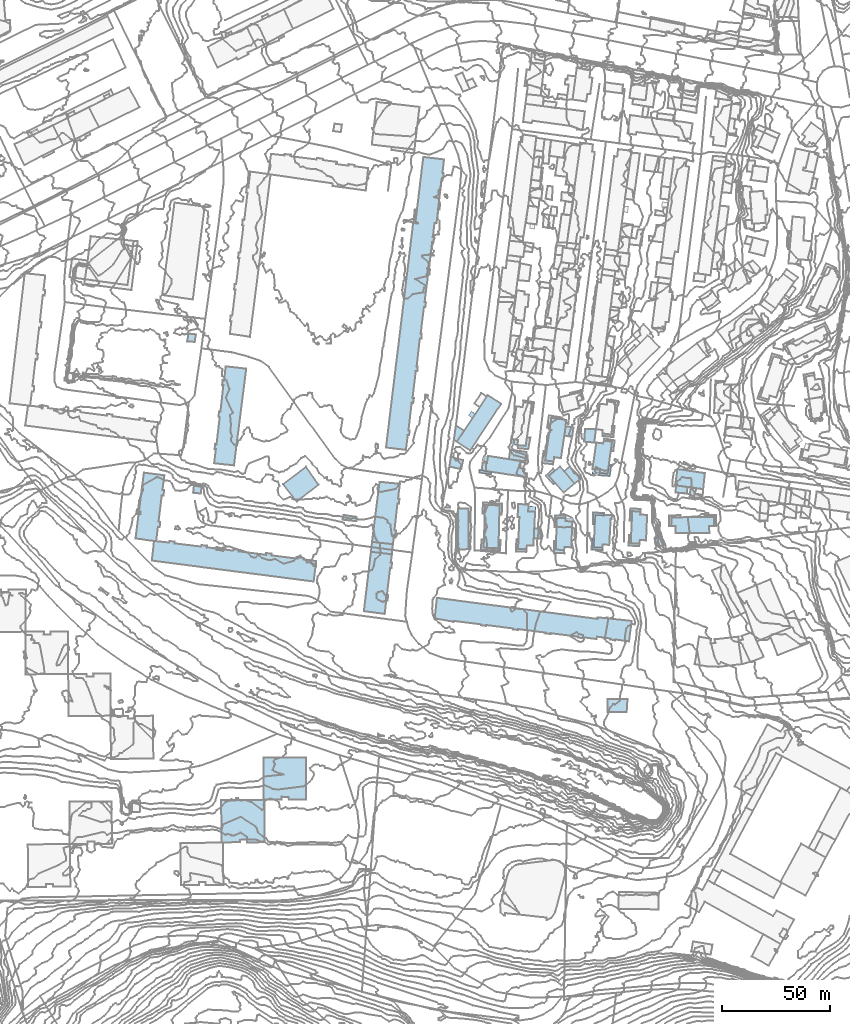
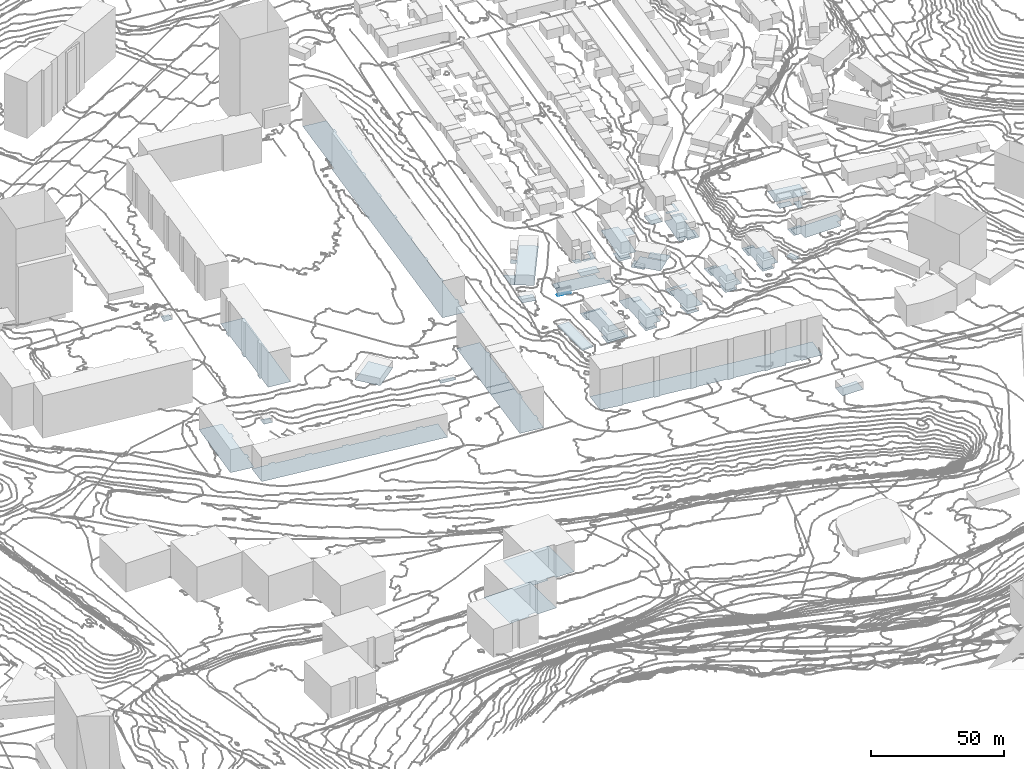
# Not in any storey, part 10 of 419: 61 footings.
"""IFC2X3 model written with IfcOpenShell, lengths in metres."""

import ifcopenshell
import ifcopenshell.guid

model = None  # the IFC model being written
_history = None  # IfcOwnerHistory: only IFC2X3 demands one
_inside = {}  # id of a spatial element -> (the spatial element, [elements in it])
_under = {}  # id of a project, library or spatial element -> (it, [spatial elements below it])
_declared = {}  # id of a project -> (the project, [libraries it declares])
_typed = {}  # id of a type object -> (the type object, [elements of that type])
_made_of = {}  # id of a material, layer set ... -> (it, [elements and type objects made of it])


def new_model(schema):
    """Start an empty IFC model of exactly this schema.

    Asked for "IFC4X3", IfcOpenShell would pick the latest addendum, in which some entities
    have other attributes; the version numbers below select the first issue.
    IFC2X3 requires an IfcOwnerHistory on every rooted entity: one is made here for all.
    """
    global model, _history
    if schema == "IFC4X3":
        model = ifcopenshell.file(schema_version=(4, 3, 0, 0))
    else:
        model = ifcopenshell.file(schema=schema)
    _inside.clear()
    _under.clear()
    _declared.clear()
    _typed.clear()
    _made_of.clear()
    _history = None
    if model.schema == "IFC2X3":
        org = make("IfcOrganization", Name="unknown")
        user = make(
            "IfcPersonAndOrganization",
            ThePerson=make("IfcPerson", FamilyName="unknown"),
            TheOrganization=org,
        )
        app = make(
            "IfcApplication",
            ApplicationDeveloper=org,
            Version="unknown",
            ApplicationFullName="unknown",
            ApplicationIdentifier="unknown",
        )
        _history = make(
            "IfcOwnerHistory",
            OwningUser=user,
            OwningApplication=app,
            ChangeAction="ADDED",
            CreationDate=0,
        )
    return model


def make(cls, **values):
    """One entity of the class cls with the attributes given. An attribute that is None is left unset."""
    return model.create_entity(
        cls, **{name: value for name, value in values.items() if value is not None}
    )


def rooted(cls, **values):
    """An entity with a GlobalId (a new one), such as an element, a storey or a relation."""
    return make(cls, GlobalId=ifcopenshell.guid.new(), OwnerHistory=_history, **values)


def si_unit(unit_type, name, prefix=None):
    """IfcSIUnit, for example si_unit("LENGTHUNIT", "METRE", prefix="MILLI")."""
    return make("IfcSIUnit", UnitType=unit_type, Prefix=prefix, Name=name)


def assignment(units):
    """IfcUnitAssignment: the units of a project."""
    return None if units is None else make("IfcUnitAssignment", Units=units)


def point(xyz):
    """IfcCartesianPoint."""
    return None if xyz is None else make("IfcCartesianPoint", Coordinates=xyz)


def direction(xyz):
    """IfcDirection."""
    return None if xyz is None else make("IfcDirection", DirectionRatios=xyz)


def frame(location, z_axis=None, x_axis=None):
    """IfcAxis2Placement3D, a coordinate frame: its origin and axes. An axis left out is left unset."""
    return make(
        "IfcAxis2Placement3D",
        Location=point(location),
        Axis=direction(z_axis),
        RefDirection=direction(x_axis),
    )


def origin_with_axes():
    """The frame at (0, 0, 0) with the z axis (0, 0, 1) and the x axis (1, 0, 0) written out."""
    return frame((0.0, 0.0, 0.0), z_axis=(0.0, 0.0, 1.0), x_axis=(1.0, 0.0, 0.0))


def place(relative_to, where):
    """IfcLocalPlacement: puts the frame where relative to a parent placement (None: the world)."""
    return make(
        "IfcLocalPlacement", PlacementRelTo=relative_to, RelativePlacement=where
    )


def context(
    kind, dimensions, precision=None, world=None, true_north=None, identifier=None
):
    """IfcGeometricRepresentationContext, for example the 3D "Model" context."""
    return make(
        "IfcGeometricRepresentationContext",
        ContextIdentifier=identifier,
        ContextType=kind,
        CoordinateSpaceDimension=dimensions,
        Precision=precision,
        WorldCoordinateSystem=world,
        TrueNorth=true_north,
    )


def subcontext(parent, identifier, kind, view, scale=None):
    """IfcGeometricRepresentationSubContext, for example "Body" below "Model"."""
    return make(
        "IfcGeometricRepresentationSubContext",
        ContextIdentifier=identifier,
        ContextType=kind,
        ParentContext=parent,
        TargetScale=scale,
        TargetView=view,
    )


def project(units=None, contexts=None):
    """IfcProject with its units and contexts."""
    return rooted(
        "IfcProject",
        Name="project",
        RepresentationContexts=contexts,
        UnitsInContext=assignment(units),
    )


def faces_of(points, faces, orient=None, outer=None):
    """IfcFace entities. A face is a list of loops; a loop is a list of indices into points, from 0.

    orient and outer hold one flag for each loop. By default every Orientation is true, the
    first loop of a face is its IfcFaceOuterBound and the others are IfcFaceBound.
    """
    made = []
    for i, loops in enumerate(faces):
        bounds = []
        for j, loop in enumerate(loops):
            is_outer = j == 0 if outer is None else outer[i][j]
            bounds.append(
                make(
                    "IfcFaceOuterBound" if is_outer else "IfcFaceBound",
                    Bound=make("IfcPolyLoop", Polygon=[points[k] for k in loop]),
                    Orientation=True if orient is None else orient[i][j],
                )
            )
        made.append(make("IfcFace", Bounds=bounds))
    return made


def faceted_brep(points, faces, orient=None, outer=None, voids=None):
    """IfcFacetedBrep: a solid bounded by flat faces; with voids (closed shells), ...WithVoids."""
    shared = [point(p) for p in points]
    hull = make("IfcClosedShell", CfsFaces=faces_of(shared, faces, orient, outer))
    if voids is None:
        return make("IfcFacetedBrep", Outer=hull)
    return make(
        "IfcFacetedBrepWithVoids",
        Outer=hull,
        Voids=[
            make(cls, CfsFaces=faces_of(shared, fs, o, b)) for cls, fs, o, b in voids
        ],
    )


def shape(context_of_items, identifier, shape_type, items):
    """IfcShapeRepresentation: the items that make up one representation, for example the "Body"."""
    return make(
        "IfcShapeRepresentation",
        ContextOfItems=context_of_items,
        RepresentationIdentifier=identifier,
        RepresentationType=shape_type,
        Items=items,
    )


def made_of(thing, what):
    """Note that an element or type object is made of a material, layer set ...; save() writes the relation."""
    if what is not None:
        _made_of.setdefault(what.id(), (what, []))[1].append(thing)
    return thing


def element(
    cls,
    number,
    at=None,
    inside=None,
    cuts=None,
    type_object=None,
    material=None,
    context=None,
    identifier="Body",
    shape_type=None,
    held_by="IfcProductDefinitionShape",
    body=None,
    shapes=None,
    **own,
):
    """One element of the class cls, such as IfcWall. Its Tag is "e" and its number.

    at: its placement. inside: the storey or other place that contains it. cuts: it is an
    opening in that element (IfcRelVoidsElement). A single representation is given by context,
    identifier, shape_type and body (its items); several are given by shapes. held_by: the class
    of the entity that holds the representations. save() writes the other relations.
    """
    e = rooted(cls, Tag="e%d" % number, ObjectPlacement=at, **own)
    if body is not None:
        shapes = [shape(context, identifier, shape_type, body)]
    if shapes is not None:
        e.Representation = make(held_by, Representations=shapes)
    if inside is not None:
        _inside.setdefault(inside.id(), (inside, []))[1].append(e)
    if cuts is not None:
        rooted(
            "IfcRelVoidsElement", RelatingBuildingElement=cuts, RelatedOpeningElement=e
        )
    if type_object is not None:
        _typed.setdefault(type_object.id(), (type_object, []))[1].append(e)
    return made_of(e, material)


def aggregate(whole, parts):
    """IfcRelAggregates: a whole, such as a stair, and the parts it consists of."""
    return rooted("IfcRelAggregates", RelatingObject=whole, RelatedObjects=parts)


def save(model, path):
    """Write the relations noted so far, then the file.

    IfcRelAggregates (storeys below a building ...), IfcRelContainedInSpatialStructure (elements
    in a storey), IfcRelDefinesByType, IfcRelAssociatesMaterial and IfcRelDeclares: one each for
    every whole, place, type object, material and project.
    """
    for whole, parts in _under.values():
        aggregate(whole, parts)
    for where, things in _inside.values():
        rooted(
            "IfcRelContainedInSpatialStructure",
            RelatedElements=things,
            RelatingStructure=where,
        )
    for kind, things in _typed.values():
        rooted("IfcRelDefinesByType", RelatedObjects=things, RelatingType=kind)
    for what, things in _made_of.values():
        rooted("IfcRelAssociatesMaterial", RelatedObjects=things, RelatingMaterial=what)
    for by, libraries in _declared.values():
        rooted("IfcRelDeclares", RelatingContext=by, RelatedDefinitions=libraries)
    model.write(path)


model = new_model("IFC2X3")

# Units and contexts
model_context = context("Model", 3, precision=1e-05, world=origin_with_axes())
body_context = subcontext(model_context, "Body", "Model", "MODEL_VIEW")
ifc_project = project(units=[si_unit("AREAUNIT", "SQUARE_METRE"), si_unit("LENGTHUNIT", "METRE")], contexts=[model_context])

# Footings
footing_1_placement = place(None, frame((531.4920204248, 540.9976909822, 34.6650009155), z_axis=(0.0, 0.0, 1.0), x_axis=(1.0, 0.0, 0.0)))
element("IfcFooting", 1, at=footing_1_placement, Name="Sol 0", PredefinedType="STRIP_FOOTING", context=body_context, shape_type="Brep", body=[
    faceted_brep([(8.9, -0.0999999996, 0.0), (0.0, 0.0, 0.0), (0.1, 5.9000000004, 0.0), (9.2999999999, 5.9000000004, 0.0)], [[[0, 1, 2]], [[2, 3, 0]]]),
])
footing_2_placement = place(None, frame((380.8920204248, 646.6976909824, 30.5800001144), z_axis=(0.0, 0.0, 1.0), x_axis=(1.0, 0.0, 0.0)))
element("IfcFooting", 2, at=footing_2_placement, Name="Sol 0", PredefinedType="STRIP_FOOTING", context=body_context, shape_type="Brep", body=[
    faceted_brep([(0.0, 0.0, 0.0), (10.6, 8.1000000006, 0.0), (16.3999999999, -0.2000000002, 0.0), (6.3999999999, -8.0, 0.0)], [[[0, 1, 2]], [[2, 3, 0]]]),
])
footing_3_placement = place(None, frame((487.0920204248, 667.5976909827, 35.5330013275), z_axis=(0.0, 0.0, 1.0), x_axis=(1.0, 0.0, 0.0)))
element("IfcFooting", 3, at=footing_3_placement, Name="Sol 0", PredefinedType="STRIP_FOOTING", context=body_context, shape_type="Brep", body=[
    faceted_brep([(2.9, -0.4000000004, 0.0), (2.6, -2.7999999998, 0.0), (0.1, -2.5, 0.0), (0.0, 0.0, 0.0)], [[[0, 1, 2]], [[2, 3, 0]]]),
])
footing_4_placement = place(None, frame((451.2920204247, 584.3976909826, 30.0220005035), z_axis=(0.0, 0.0, 1.0), x_axis=(1.0, 0.0, 0.0)))
element("IfcFooting", 4, at=footing_4_placement, Name="Sol 0", PredefinedType="STRIP_FOOTING", context=body_context, shape_type="Brep", body=[
    faceted_brep([(91.4, -1.2000000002, 0.0), (90.2000000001, -10.7000000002, 0.0), (83.8, -9.7999999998, 0.0), (75.7000000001, -0.2999999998, 0.0), (75.7000000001, 0.5, 0.0), (0.0, 0.0, 0.0), (1.0, 9.5, 0.0), (8.8, -1.2000000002, 0.0), (8.7000000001, -1.5999999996, 0.0), (23.8, -3.5, 0.0), (21.6000000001, -3.2000000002, 0.0), (21.6000000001, -2.7999999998, 0.0), (38.6000000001, -5.4000000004, 0.0), (36.4, -5.0999999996, 0.0), (36.4, -4.7000000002, 0.0), (53.7000000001, -7.2999999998, 0.0), (51.5, -7.0, 0.0), (51.5, -6.5999999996, 0.0), (68.7000000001, -9.2000000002, 0.0), (66.5, -8.9000000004, 0.0), (66.5, -8.5, 0.0), (75.3, -8.5, 0.0), (75.1000000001, -9.5999999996, 0.0), (68.8, -8.7999999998, 0.0), (83.8, -10.2000000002, 0.0), (81.5, -9.7999999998, 0.0), (81.6000000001, -9.4000000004, 0.0), (23.9, -3.0999999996, 0.0), (38.7000000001, -5.0, 0.0), (53.8, -6.9000000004, 0.0)], [[[0, 1, 2]], [[3, 4, 0]], [[5, 6, 3]], [[7, 8, 5]], [[9, 10, 11]], [[12, 13, 14]], [[15, 16, 17]], [[18, 19, 20]], [[21, 22, 23]], [[24, 25, 26]], [[3, 0, 2]], [[7, 5, 3]], [[27, 9, 11]], [[28, 12, 14]], [[29, 15, 17]], [[23, 18, 20]], [[2, 24, 26]], [[11, 7, 3]], [[14, 27, 11]], [[17, 28, 14]], [[20, 29, 17]], [[21, 23, 20]], [[3, 2, 26]], [[14, 11, 3]], [[21, 20, 17]], [[3, 26, 21]], [[17, 14, 3]], [[3, 21, 17]]]),
])
footing_5_placement = place(None, frame((511.9920204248, 629.4976909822, 37.3230004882), z_axis=(0.0, 0.0, 1.0), x_axis=(1.0, 0.0, 0.0)))
element("IfcFooting", 5, at=footing_5_placement, Name="Sol 0", PredefinedType="STRIP_FOOTING", context=body_context, shape_type="Brep", body=[
    faceted_brep([(3.4, 1.5, 0.0), (3.2, -0.0999999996, 0.0), (0.0, 0.0, 0.0), (0.0, 1.5, 0.0)], [[[0, 1, 2]], [[2, 3, 0]]]),
])
footing_6_placement = place(None, frame((418.3920204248, 587.6976909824, 28.7110006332), z_axis=(0.0, 0.0, 1.0), x_axis=(1.0, 0.0, 0.0)))
element("IfcFooting", 6, at=footing_6_placement, Name="Sol 0", PredefinedType="STRIP_FOOTING", context=body_context, shape_type="Brep", body=[
    faceted_brep([(0.0, 0.0, 0.0), (3.2999999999, 27.6000000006, 0.0), (13.0, 26.4000000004, 0.0), (10.3999999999, 5.1000000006, 0.0), (9.7, -1.2000000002, 0.0), (11.2999999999, 7.6000000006, 0.0), (11.0, 5.0, 0.0), (13.1, 22.6000000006, 0.0), (12.7999999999, 20.1000000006, 0.0), (12.2, 20.1000000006, 0.0), (12.5, 22.7000000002, 0.0), (10.7, 7.6000000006, 0.0)], [[[0, 1, 2]], [[3, 4, 0]], [[5, 6, 3]], [[7, 8, 9]], [[0, 2, 10]], [[5, 3, 0]], [[10, 7, 9]], [[11, 5, 0]], [[10, 9, 11]], [[11, 0, 10]]]),
])
footing_7_placement = place(None, frame((561.0920204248, 627.1976909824, 45.709199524), z_axis=(0.0, 0.0, 1.0), x_axis=(1.0, 0.0, 0.0)))
element("IfcFooting", 7, at=footing_7_placement, Name="Sol 0", PredefinedType="STRIP_FOOTING", context=body_context, shape_type="Brep", body=[
    faceted_brep([(2.0, 0.1000000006, 0.0), (0.0, 0.0, 0.0), (0.1, 4.1000000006, 0.0), (17.7, -3.0999999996, 0.0), (2.1, -3.2000000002, 0.0), (19.8, 4.2000000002, 0.0), (19.8, 0.0, 0.0), (17.6, 0.0, 0.0)], [[[0, 1, 2]], [[3, 4, 0]], [[5, 6, 7]], [[0, 2, 5]], [[7, 3, 0]], [[0, 5, 7]]]),
])
footing_8_placement = place(None, frame((542.2920204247, 619.2976909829, 41.3799995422), z_axis=(0.0, 0.0, 1.0), x_axis=(1.0, 0.0, 0.0)))
element("IfcFooting", 8, at=footing_8_placement, Name="Sol 0", PredefinedType="STRIP_FOOTING", context=body_context, shape_type="Brep", body=[
    faceted_brep([(4.2000000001, 1.5, 0.0), (4.0, -0.2000000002, 0.0), (0.0, 0.0, 0.0), (7.6000000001, 13.0999999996, 0.0), (7.1000000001, 1.2999999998, 0.0), (0.7000000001, 14.8999999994, 0.0), (4.5, 14.5999999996, 0.0), (4.4, 13.2999999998, 0.0)], [[[0, 1, 2]], [[3, 4, 0]], [[5, 6, 7]], [[0, 2, 5]], [[7, 3, 0]], [[0, 5, 7]]]),
])
footing_9_placement = place(None, frame((502.8920204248, 650.6976909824, 37.2302006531), z_axis=(0.0, 0.0, 1.0), x_axis=(1.0, 0.0, 0.0)))
element("IfcFooting", 9, at=footing_9_placement, Name="Sol 0", PredefinedType="STRIP_FOOTING", context=body_context, shape_type="Brep", body=[
    faceted_brep([(3.3999999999, 3.2000000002, 0.0), (4.0, 2.2999999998, 0.0), (1.3999999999, -0.0999999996, 0.0), (4.2, -3.5, 0.0), (3.5, -4.0, 0.0), (0.0, 0.0, 0.0)], [[[0, 1, 2]], [[3, 4, 5]], [[5, 0, 2]], [[2, 3, 5]]]),
])
footing_10_placement = place(None, frame((489.6920204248, 664.7976909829, 36.5316988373), z_axis=(0.0, 0.0, 1.0), x_axis=(1.0, 0.0, 0.0)))
element("IfcFooting", 10, at=footing_10_placement, Name="Sol 0", PredefinedType="STRIP_FOOTING", context=body_context, shape_type="Brep", body=[
    faceted_brep([(0.3, -1.4000000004, 0.0), (0.0, 0.0, 0.0), (3.8, -0.3000000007, 0.0), (4.4, 3.6999999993, 0.0), (6.0, 3.5, 0.0), (5.0, -1.9000000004, 0.0)], [[[0, 1, 2]], [[3, 4, 5]], [[5, 0, 2]], [[2, 3, 5]]]),
])
footing_11_placement = place(None, frame((541.2920204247, 618.1976909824, 41.4967990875), z_axis=(0.0, 0.0, 1.0), x_axis=(1.0, 0.0, 0.0)))
element("IfcFooting", 11, at=footing_11_placement, Name="Sol 0", PredefinedType="STRIP_FOOTING", context=body_context, shape_type="Brep", body=[
    faceted_brep([(1.0, 1.1000000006, 0.0), (5.0, 0.9000000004, 0.0), (4.9, -0.2999999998, 0.0), (0.2000000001, 5.0, 0.0), (1.0, 5.0, 0.0), (0.0, 0.0, 0.0)], [[[0, 1, 2]], [[3, 4, 0]], [[0, 2, 5]], [[5, 3, 0]]]),
])
footing_12_placement = place(None, frame((458.0920204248, 654.7976909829, 33.89060112), z_axis=(0.0, 0.0, 1.0), x_axis=(1.0, 0.0, 0.0)))
element("IfcFooting", 12, at=footing_12_placement, Name="Sol 0", PredefinedType="STRIP_FOOTING", context=body_context, shape_type="Brep", body=[
    faceted_brep([(5.5, -1.1000000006, 0.0), (0.0, 0.0, 0.0), (0.7, 4.5, 0.0), (6.4, 3.0, 0.0)], [[[0, 1, 2]], [[2, 3, 0]]]),
])
footing_13_placement = place(None, frame((524.0920204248, 616.2976909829, 38.8784992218), z_axis=(0.0, 0.0, 1.0), x_axis=(1.0, 0.0, 0.0)))
element("IfcFooting", 13, at=footing_13_placement, Name="Sol 0", PredefinedType="STRIP_FOOTING", context=body_context, shape_type="Brep", body=[
    faceted_brep([(1.0, 1.0999999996, 0.0), (5.0, 1.0, 0.0), (5.0, -0.1000000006, 0.0), (0.3, 5.1999999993, 0.0), (1.2, 5.0999999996, 0.0), (0.0, 0.0, 0.0)], [[[0, 1, 2]], [[3, 4, 0]], [[0, 2, 5]], [[5, 3, 0]]]),
])
footing_14_placement = place(None, frame((541.7920204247, 629.8976909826, 41.3649997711), z_axis=(0.0, 0.0, 1.0), x_axis=(1.0, 0.0, 0.0)))
element("IfcFooting", 14, at=footing_14_placement, Name="Sol 0", PredefinedType="STRIP_FOOTING", context=body_context, shape_type="Brep", body=[
    faceted_brep([(5.1000000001, 5.2999999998, 0.0), (5.0, 4.0, 0.0), (1.2000000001, 4.2999999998, 0.0), (0.9, -0.2000000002, 0.0), (0.0, 0.0, 0.0), (0.3, 5.5, 0.0)], [[[0, 1, 2]], [[3, 4, 5]], [[5, 0, 2]], [[2, 3, 5]]]),
])
footing_15_placement = place(None, frame((336.3920204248, 712.9976909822, 32.726300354), z_axis=(0.0, 0.0, 1.0), x_axis=(1.0, 0.0, 0.0)))
element("IfcFooting", 15, at=footing_15_placement, Name="Sol 0", PredefinedType="STRIP_FOOTING", context=body_context, shape_type="Brep", body=[
    faceted_brep([(3.5, -0.2999999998, 0.0), (0.0, 0.0, 0.0), (0.6, 3.6000000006, 0.0), (4.0, 3.2000000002, 0.0)], [[[0, 1, 2]], [[2, 3, 0]]]),
])
footing_16_placement = place(None, frame((489.0920204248, 615.4976909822, 34.1513998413), z_axis=(0.0, 0.0, 1.0), x_axis=(1.0, 0.0, 0.0)))
element("IfcFooting", 16, at=footing_16_placement, Name="Sol 0", PredefinedType="STRIP_FOOTING", context=body_context, shape_type="Brep", body=[
    faceted_brep([(0.1, 5.6000000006, 0.0), (1.1, 5.8000000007, 0.0), (0.9, 1.2000000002, 0.0), (4.8, 1.1000000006, 0.0), (4.7, -0.1999999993, 0.0), (0.0, 0.0, 0.0)], [[[0, 1, 2]], [[3, 4, 5]], [[5, 0, 2]], [[2, 3, 5]]]),
])
footing_17_placement = place(None, frame((485.6920204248, 658.2976909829, 34.2639987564), z_axis=(0.0, 0.0, 1.0), x_axis=(1.0, 0.0, 0.0)))
element("IfcFooting", 17, at=footing_17_placement, Name="Sol 0", PredefinedType="STRIP_FOOTING", context=body_context, shape_type="Brep", body=[
    faceted_brep([(7.6, -1.0, 0.0), (0.0, 0.0, 0.0), (0.7000000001, 4.3999999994, 0.0), (8.3, 3.2999999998, 0.0)], [[[0, 1, 2]], [[2, 3, 0]]]),
])
footing_18_placement = place(None, frame((520.6920204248, 666.3976909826, 40.8299991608), z_axis=(0.0, 0.0, 1.0), x_axis=(1.0, 0.0, 0.0)))
element("IfcFooting", 18, at=footing_18_placement, Name="Sol 0", PredefinedType="STRIP_FOOTING", context=body_context, shape_type="Brep", body=[
    faceted_brep([(0.4, 6.0, 0.0), (5.4, 5.9000000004, 0.0), (4.7000000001, -0.4000000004, 0.0), (0.0, 0.0, 0.0)], [[[0, 1, 2]], [[2, 3, 0]]]),
])
footing_19_placement = place(None, frame((524.3920204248, 651.4976909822, 40.9319988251), z_axis=(0.0, 0.0, 1.0), x_axis=(1.0, 0.0, 0.0)))
element("IfcFooting", 19, at=footing_19_placement, Name="Sol 0", PredefinedType="STRIP_FOOTING", context=body_context, shape_type="Brep", body=[
    faceted_brep([(3.6, 1.9000000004, 0.0), (3.5, 0.5, 0.0), (2.7, 0.8000000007, 0.0), (0.0, 0.0, 0.0), (0.1, 2.3000000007, 0.0), (2.3999999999, -0.1999999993, 0.0)], [[[0, 1, 2]], [[3, 4, 0]], [[2, 5, 3]], [[3, 0, 2]]]),
])
footing_20_placement = place(None, frame((511.4920204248, 669.1976909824, 37.2300003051), z_axis=(0.0, 0.0, 1.0), x_axis=(1.0, 0.0, 0.0)))
element("IfcFooting", 20, at=footing_20_placement, Name="Sol 0", PredefinedType="STRIP_FOOTING", context=body_context, shape_type="Brep", body=[
    faceted_brep([(0.0, 0.0, 0.0), (0.6, 4.4000000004, 0.0), (4.2, 3.7999999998, 0.0), (3.6, -0.5, 0.0)], [[[0, 1, 2]], [[2, 3, 0]]]),
])
footing_21_placement = place(None, frame((562.9920204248, 642.8976909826, 47.7364006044), z_axis=(0.0, 0.0, 1.0), x_axis=(1.0, 0.0, 0.0)))
element("IfcFooting", 21, at=footing_21_placement, Name="Sol 0", PredefinedType="STRIP_FOOTING", context=body_context, shape_type="Brep", body=[
    faceted_brep([(0.0, 0.0, 0.0), (0.4, 3.2000000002, 0.0), (5.7, 2.4000000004, 0.0), (5.2, -0.5999999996, 0.0)], [[[0, 1, 2]], [[2, 3, 0]]]),
])
footing_22_placement = place(None, frame((507.4920204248, 616.3976909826, 36.2219997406), z_axis=(0.0, 0.0, 1.0), x_axis=(1.0, 0.0, 0.0)))
element("IfcFooting", 22, at=footing_22_placement, Name="Sol 0", PredefinedType="STRIP_FOOTING", context=body_context, shape_type="Brep", body=[
    faceted_brep([(4.5, 13.0999999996, 0.0), (7.7, 13.0, 0.0), (7.2, 0.9000000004, 0.0), (0.5, 14.5999999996, 0.0), (4.5, 14.5999999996, 0.0), (3.7999999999, -0.4000000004, 0.0), (0.0, 0.0, 0.0), (4.1, 1.2000000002, 0.0)], [[[0, 1, 2]], [[3, 4, 0]], [[5, 6, 3]], [[0, 2, 7]], [[5, 3, 0]], [[0, 7, 5]]]),
])
footing_23_placement = place(None, frame((524.4920204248, 653.7976909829, 40.8986994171), z_axis=(0.0, 0.0, 1.0), x_axis=(1.0, 0.0, 0.0)))
element("IfcFooting", 23, at=footing_23_placement, Name="Sol 0", PredefinedType="STRIP_FOOTING", context=body_context, shape_type="Brep", body=[
    faceted_brep([(3.5, -0.4000000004, 0.0), (0.0, 0.0, 0.0), (1.7999999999, 12.1999999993, 0.0), (7.0, -2.3000000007, 0.0), (3.4, -1.8000000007, 0.0), (5.2999999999, 13.0999999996, 0.0), (9.1, 12.5999999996, 0.0), (5.0, 11.7999999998, 0.0)], [[[0, 1, 2]], [[3, 4, 0]], [[5, 6, 3]], [[0, 2, 7]], [[5, 3, 0]], [[0, 7, 5]]]),
])
footing_24_placement = place(None, frame((501.0920204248, 656.4976909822, 36.9775999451), z_axis=(0.0, 0.0, 1.0), x_axis=(1.0, 0.0, 0.0)))
element("IfcFooting", 24, at=footing_24_placement, Name="Sol 0", PredefinedType="STRIP_FOOTING", context=body_context, shape_type="Brep", body=[
    faceted_brep([(1.5, 1.2000000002, 0.0), (5.3, 0.7000000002, 0.0), (5.1, -0.5999999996, 0.0), (0.7, 5.6000000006, 0.0), (2.1, 5.4000000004, 0.0), (0.0, 0.0, 0.0)], [[[0, 1, 2]], [[3, 4, 0]], [[0, 2, 5]], [[5, 3, 0]]]),
])
footing_25_placement = place(None, frame((473.4920204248, 633.0976909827, 33.7929993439), z_axis=(0.0, 0.0, 1.0), x_axis=(1.0, 0.0, 0.0)))
element("IfcFooting", 25, at=footing_25_placement, Name="Sol 0", PredefinedType="STRIP_FOOTING", context=body_context, shape_type="Brep", body=[
    faceted_brep([(1.1, 4.0, 0.0), (1.0, 0.0, 0.0), (0.0, 0.0, 0.0), (8.9, -0.4000000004, 0.0), (7.7999999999, -0.4000000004, 0.0), (7.9, 3.7000000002, 0.0), (0.2, 5.0999999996, 0.0), (9.1, 4.5, 0.0)], [[[0, 1, 2]], [[3, 4, 5]], [[0, 2, 6]], [[7, 3, 5]], [[0, 6, 7]], [[7, 5, 0]]]),
])
footing_26_placement = place(None, frame((472.6920204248, 616.0976909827, 33.9259983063), z_axis=(0.0, 0.0, 1.0), x_axis=(1.0, 0.0, 0.0)))
element("IfcFooting", 26, at=footing_26_placement, Name="Sol 0", PredefinedType="STRIP_FOOTING", context=body_context, shape_type="Brep", body=[
    faceted_brep([(0.4, 5.0, 0.0), (1.5, 5.0, 0.0), (1.2000000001, 1.0999999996, 0.0), (8.4, 4.7000000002, 0.0), (9.2000000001, 4.7000000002, 0.0), (8.9, -0.2999999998, 0.0), (0.0, 0.0, 0.0), (8.2000000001, 0.7999999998, 0.0)], [[[0, 1, 2]], [[3, 4, 5]], [[6, 0, 2]], [[7, 3, 5]], [[6, 2, 7]], [[7, 5, 6]]]),
])
footing_27_placement = place(None, frame((460.1920204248, 667.2976909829, 34.0620014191), z_axis=(0.0, 0.0, 1.0), x_axis=(1.0, 0.0, 0.0)))
element("IfcFooting", 27, at=footing_27_placement, Name="Sol 0", PredefinedType="STRIP_FOOTING", context=body_context, shape_type="Brep", body=[
    faceted_brep([(0.0, 0.0, 0.0), (0.9, 6.6999999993, 0.0), (4.7000000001, 4.1999999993, 0.0), (1.3, -0.9000000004, 0.0)], [[[0, 1, 2]], [[2, 3, 0]]]),
])
footing_28_placement = place(None, frame((421.6920204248, 615.2976909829, 28.7110006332), z_axis=(0.0, 0.0, 1.0), x_axis=(1.0, 0.0, 0.0)))
element("IfcFooting", 28, at=footing_28_placement, Name="Sol 0", PredefinedType="STRIP_FOOTING", context=body_context, shape_type="Brep", body=[
    faceted_brep([(9.7000000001, -1.2000000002, 0.0), (0.0, 0.0, 0.0), (0.5, 4.5999999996, 0.0), (10.2000000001, 3.5, 0.0)], [[[0, 1, 2]], [[2, 3, 0]]]),
])
footing_29_placement = place(None, frame((511.3920204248, 652.6976909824, 37.4983989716), z_axis=(0.0, 0.0, 1.0), x_axis=(1.0, 0.0, 0.0)))
element("IfcFooting", 29, at=footing_29_placement, Name="Sol 0", PredefinedType="STRIP_FOOTING", context=body_context, shape_type="Brep", body=[
    faceted_brep([(4.8999999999, -5.5999999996, 0.0), (0.0, 0.0, 0.0), (2.6, 2.4000000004, 0.0), (8.1, -3.2999999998, 0.0)], [[[0, 1, 2]], [[2, 3, 0]]]),
])
footing_30_placement = place(None, frame((497.2920204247, 621.4976909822, 34.3826002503), z_axis=(0.0, 0.0, 1.0), x_axis=(1.0, 0.0, 0.0)))
element("IfcFooting", 30, at=footing_30_placement, Name="Sol 0", PredefinedType="STRIP_FOOTING", context=body_context, shape_type="Brep", body=[
    faceted_brep([(0.0, 0.0, 0.0), (0.2000000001, 4.5, 0.0), (3.2000000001, 4.5, 0.0), (3.1000000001, -0.0999999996, 0.0)], [[[0, 1, 2]], [[2, 3, 0]]]),
])
footing_31_placement = place(None, frame((422.1920204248, 619.8976909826, 28.7740003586), z_axis=(0.0, 0.0, 1.0), x_axis=(1.0, 0.0, 0.0)))
element("IfcFooting", 31, at=footing_31_placement, Name="Sol 0", PredefinedType="STRIP_FOOTING", context=body_context, shape_type="Brep", body=[
    faceted_brep([(9.7000000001, -1.0999999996, 0.0), (0.0, 0.0, 0.0), (3.5, 27.9000000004, 0.0), (11.1, 5.2999999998, 0.0), (10.8, 3.0, 0.0), (10.2000000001, 3.0999999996, 0.0), (12.7000000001, 20.0, 0.0), (12.5, 17.7000000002, 0.0), (11.8, 17.7999999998, 0.0), (12.9, 26.9000000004, 0.0), (12.1, 20.0999999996, 0.0), (10.4, 5.4000000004, 0.0)], [[[0, 1, 2]], [[3, 4, 5]], [[6, 7, 8]], [[2, 9, 10]], [[5, 0, 2]], [[11, 3, 5]], [[10, 6, 8]], [[11, 5, 2]], [[2, 10, 8]], [[8, 11, 2]]]),
])
footing_32_placement = place(None, frame((312.3920204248, 621.4976909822, 27.3139995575), z_axis=(0.0, 0.0, 1.0), x_axis=(1.0, 0.0, 0.0)))
element("IfcFooting", 32, at=footing_32_placement, Name="Sol 0", PredefinedType="STRIP_FOOTING", context=body_context, shape_type="Brep", body=[
    faceted_brep([(9.6, -1.1999999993, 0.0), (8.6, -1.1999999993, 0.0), (0.0, 0.0, 0.0), (11.5, 7.7000000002, 0.0), (11.2, 5.2000000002, 0.0), (10.3999999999, 5.3000000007, 0.0), (13.2999999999, 22.4000000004, 0.0), (13.0, 19.9000000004, 0.0), (12.2, 20.0, 0.0), (3.8999999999, 30.5, 0.0), (13.3999999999, 29.3000000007, 0.0), (12.5, 22.5, 0.0), (10.7, 7.8000000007, 0.0)], [[[0, 1, 2]], [[3, 4, 5]], [[6, 7, 8]], [[9, 10, 11]], [[0, 2, 9]], [[12, 3, 5]], [[11, 6, 8]], [[5, 0, 9]], [[11, 8, 12]], [[12, 5, 9]], [[9, 11, 12]]]),
])
footing_33_placement = place(None, frame((339.1920204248, 642.6976909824, 27.2629993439), z_axis=(0.0, 0.0, 1.0), x_axis=(1.0, 0.0, 0.0)))
element("IfcFooting", 33, at=footing_33_placement, Name="Sol 0", PredefinedType="STRIP_FOOTING", context=body_context, shape_type="Brep", body=[
    faceted_brep([(3.9, 2.7999999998, 0.0), (3.5, -0.3999999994, 0.0), (0.0, 0.0, 0.0), (0.3, 3.2000000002, 0.0)], [[[0, 1, 2]], [[2, 3, 0]]]),
])
footing_34_placement = place(None, frame((524.6920204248, 628.1976909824, 39.2345994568), z_axis=(0.0, 0.0, 1.0), x_axis=(1.0, 0.0, 0.0)))
element("IfcFooting", 34, at=footing_34_placement, Name="Sol 0", PredefinedType="STRIP_FOOTING", context=body_context, shape_type="Brep", body=[
    faceted_brep([(5.1, 5.0, 0.0), (5.1, 4.0, 0.0), (1.1, 4.2000000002, 0.0), (0.9, -0.0999999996, 0.0), (0.0, 0.0, 0.0), (0.1, 5.4000000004, 0.0)], [[[0, 1, 2]], [[3, 4, 5]], [[5, 0, 2]], [[2, 3, 5]]]),
])
footing_35_placement = place(None, frame((529.0920204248, 669.0976909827, 41.3235997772), z_axis=(0.0, 0.0, 1.0), x_axis=(1.0, 0.0, 0.0)))
element("IfcFooting", 35, at=footing_35_placement, Name="Sol 0", PredefinedType="STRIP_FOOTING", context=body_context, shape_type="Brep", body=[
    faceted_brep([(0.0, 0.0, 0.0), (0.2, 1.0999999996, 0.0), (4.2, 0.5999999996, 0.0), (4.6, 4.5999999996, 0.0), (5.7, 4.5, 0.0), (5.1, -0.6000000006, 0.0)], [[[0, 1, 2]], [[3, 4, 5]], [[5, 0, 2]], [[2, 3, 5]]]),
])
footing_36_placement = place(None, frame((529.7920204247, 666.8976909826, 41.1484007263), z_axis=(0.0, 0.0, 1.0), x_axis=(1.0, 0.0, 0.0)))
element("IfcFooting", 36, at=footing_36_placement, Name="Sol 0", PredefinedType="STRIP_FOOTING", context=body_context, shape_type="Brep", body=[
    faceted_brep([(3.8, -0.5, 0.0), (0.0, 0.0, 0.0), (0.1000000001, 1.0, 0.0), (4.4, -4.7999999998, 0.0), (3.3, -4.7000000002, 0.0), (5.0, 0.0999999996, 0.0)], [[[0, 1, 2]], [[3, 4, 0]], [[0, 2, 5]], [[5, 3, 0]]]),
])
footing_37_placement = place(None, frame((506.9920204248, 626.8976909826, 36.8540000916), z_axis=(0.0, 0.0, 1.0), x_axis=(1.0, 0.0, 0.0)))
element("IfcFooting", 37, at=footing_37_placement, Name="Sol 0", PredefinedType="STRIP_FOOTING", context=body_context, shape_type="Brep", body=[
    faceted_brep([(5.1, 5.2000000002, 0.0), (5.0, 4.0999999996, 0.0), (1.0, 4.0999999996, 0.0), (0.7999999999, 0.0, 0.0), (0.0, 0.0, 0.0), (0.1, 5.2000000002, 0.0)], [[[0, 1, 2]], [[3, 4, 5]], [[5, 0, 2]], [[2, 3, 5]]]),
])
footing_38_placement = place(None, frame((494.5920204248, 633.9976909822, 34.3430002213), z_axis=(0.0, 0.0, 1.0), x_axis=(1.0, 0.0, 0.0)))
element("IfcFooting", 38, at=footing_38_placement, Name="Sol 0", PredefinedType="STRIP_FOOTING", context=body_context, shape_type="Brep", body=[
    faceted_brep([(0.0, 0.0, 0.0), (0.3, 2.6000000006, 0.0), (3.5, 2.3000000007, 0.0), (3.3, -0.0999999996, 0.0)], [[[0, 1, 2]], [[2, 3, 0]]]),
])
footing_39_placement = place(None, frame((473.5920204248, 656.7976909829, 33.9599990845), z_axis=(0.0, 0.0, 1.0), x_axis=(1.0, 0.0, 0.0)))
element("IfcFooting", 39, at=footing_39_placement, Name="Sol 0", PredefinedType="STRIP_FOOTING", context=body_context, shape_type="Brep", body=[
    faceted_brep([(1.9, -0.2000000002, 0.0), (0.0, 0.0, 0.0), (0.6, 3.0, 0.0), (2.5, 3.0, 0.0)], [[[0, 1, 2]], [[2, 3, 0]]]),
])
footing_40_placement = place(None, frame((466.7920204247, 678.5976909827, 34.5924002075), z_axis=(0.0, 0.0, 1.0), x_axis=(1.0, 0.0, 0.0)))
element("IfcFooting", 40, at=footing_40_placement, Name="Sol 0", PredefinedType="STRIP_FOOTING", context=body_context, shape_type="Brep", body=[
    faceted_brep([(3.3, 0.7999999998, 0.0), (2.0, -1.1000000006, 0.0), (0.0, 0.0, 0.0), (1.4, 2.0999999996, 0.0)], [[[0, 1, 2]], [[2, 3, 0]]]),
])
footing_41_placement = place(None, frame((527.3920204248, 650.8976909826, 40.7847005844), z_axis=(0.0, 0.0, 1.0), x_axis=(1.0, 0.0, 0.0)))
element("IfcFooting", 41, at=footing_41_placement, Name="Sol 0", PredefinedType="STRIP_FOOTING", context=body_context, shape_type="Brep", body=[
    faceted_brep([(0.0, 0.0, 0.0), (0.5, 1.0999999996, 0.0), (4.1, 0.5999999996, 0.0), (4.7999999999, 4.7999999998, 0.0), (5.7999999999, 4.7000000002, 0.0), (5.1, -0.4000000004, 0.0)], [[[0, 1, 2]], [[3, 4, 5]], [[5, 0, 2]], [[2, 3, 5]]]),
])
footing_42_placement = place(None, frame((471.9920204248, 652.0976909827, 33.9270000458), z_axis=(0.0, 0.0, 1.0), x_axis=(1.0, 0.0, 0.0)))
element("IfcFooting", 42, at=footing_42_placement, Name="Sol 0", PredefinedType="STRIP_FOOTING", context=body_context, shape_type="Brep", body=[
    faceted_brep([(0.1, 1.0999999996, 0.0), (1.1, 1.0, 0.0), (5.4, 0.0999999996, 0.0), (5.4, -0.7999999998, 0.0), (0.0, 0.0, 0.0)], [[[0, 1, 2]], [[3, 4, 0]], [[0, 2, 3]]]),
])
footing_43_placement = place(None, frame((462.0920204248, 616.3976909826, 34.0100002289), z_axis=(0.0, 0.0, 1.0), x_axis=(1.0, 0.0, 0.0)))
element("IfcFooting", 43, at=footing_43_placement, Name="Sol 0", PredefinedType="STRIP_FOOTING", context=body_context, shape_type="Brep", body=[
    faceted_brep([(0.0, 0.0, 0.0), (0.0, 19.0, 0.0), (4.9, 18.9000000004, 0.0), (4.8, 0.0999999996, 0.0)], [[[0, 1, 2]], [[2, 3, 0]]]),
])
footing_44_placement = place(None, frame((569.5920204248, 640.3976909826, 46.9099998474), z_axis=(0.0, 0.0, 1.0), x_axis=(1.0, 0.0, 0.0)))
element("IfcFooting", 44, at=footing_44_placement, Name="Sol 0", PredefinedType="STRIP_FOOTING", context=body_context, shape_type="Brep", body=[
    faceted_brep([(0.5, 4.7000000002, 0.0), (3.2, 4.2999999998, 0.0), (2.3, 1.9000000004, 0.0), (1.9, 0.0, 0.0), (0.0, 0.0, 0.0)], [[[0, 1, 2]], [[3, 4, 0]], [[0, 2, 3]]]),
])
footing_45_placement = place(None, frame((553.3920204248, 621.4976909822, 42.1348006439), z_axis=(0.0, 0.0, 1.0), x_axis=(1.0, 0.0, 0.0)))
element("IfcFooting", 45, at=footing_45_placement, Name="Sol 0", PredefinedType="STRIP_FOOTING", context=body_context, shape_type="Brep", body=[
    faceted_brep([(1.7, -4.0, 0.0), (0.0, 0.0, 0.0), (2.6, 1.2000000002, 0.0), (4.2, -3.0, 0.0)], [[[0, 1, 2]], [[2, 3, 0]]]),
])
footing_46_placement = place(None, frame((352.1920204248, 499.9976909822, 29.8795999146), z_axis=(0.0, 0.0, 1.0), x_axis=(1.0, 0.0, 0.0)))
element("IfcFooting", 46, at=footing_46_placement, Name="Sol 0", PredefinedType="STRIP_FOOTING", context=body_context, shape_type="Brep", body=[
    faceted_brep([(0.1, -19.6999999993, 0.0), (0.0, 0.0, 0.0), (19.6, 0.2000000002, 0.0), (8.7000000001, -18.3999999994, 0.0), (8.7000000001, -19.3999999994, 0.0), (20.2000000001, -19.5, 0.0), (12.0, -19.5999999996, 0.0), (11.8, -18.1999999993, 0.0), (20.1, 0.3000000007, 0.0)], [[[0, 1, 2]], [[3, 4, 0]], [[5, 6, 7]], [[2, 8, 5]], [[3, 0, 2]], [[2, 5, 7]], [[7, 3, 2]]]),
])
footing_47_placement = place(None, frame((371.7920204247, 500.1976909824, 27.8021002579), z_axis=(0.0, 0.0, 1.0), x_axis=(1.0, 0.0, 0.0)))
element("IfcFooting", 47, at=footing_47_placement, Name="Sol 0", PredefinedType="STRIP_FOOTING", context=body_context, shape_type="Brep", body=[
    faceted_brep([(19.8, 0.0, 0.0), (11.8, 0.2000000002, 0.0), (11.7000000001, 1.2999999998, 0.0), (0.1000000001, 19.5, 0.0), (19.8, 19.6000000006, 0.0), (8.5, 0.1000000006, 0.0), (0.0, 0.0, 0.0), (8.4, 1.4000000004, 0.0)], [[[0, 1, 2]], [[3, 4, 0]], [[5, 6, 3]], [[3, 0, 2]], [[7, 5, 3]], [[3, 2, 7]]]),
])
footing_48_placement = place(None, frame((506.6920204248, 614.7976909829, 36.0124001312), z_axis=(0.0, 0.0, 1.0), x_axis=(1.0, 0.0, 0.0)))
element("IfcFooting", 48, at=footing_48_placement, Name="Sol 0", PredefinedType="STRIP_FOOTING", context=body_context, shape_type="Brep", body=[
    faceted_brep([(0.8, 1.5999999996, 0.0), (4.6, 1.1999999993, 0.0), (4.9, -0.2000000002, 0.0), (0.0, 5.3999999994, 0.0), (0.9, 5.2999999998, 0.0), (0.0, 0.0, 0.0)], [[[0, 1, 2]], [[3, 4, 0]], [[0, 2, 5]], [[5, 3, 0]]]),
])
footing_49_placement = place(None, frame((473.8920204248, 617.1976909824, 33.9349990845), z_axis=(0.0, 0.0, 1.0), x_axis=(1.0, 0.0, 0.0)))
element("IfcFooting", 49, at=footing_49_placement, Name="Sol 0", PredefinedType="STRIP_FOOTING", context=body_context, shape_type="Brep", body=[
    faceted_brep([(7.0, -0.2999999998, 0.0), (0.0, 0.0, 0.0), (0.2999999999, 3.9000000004, 0.0), (0.7, 19.9000000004, 0.0), (7.5, 19.6000000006, 0.0)], [[[0, 1, 2]], [[3, 4, 0]], [[0, 2, 3]]]),
])
footing_50_placement = place(None, frame((408.5920204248, 630.1976909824, 29.3080005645), z_axis=(0.0, 0.0, 1.0), x_axis=(1.0, 0.0, 0.0)))
element("IfcFooting", 50, at=footing_50_placement, Name="Sol 0", PredefinedType="STRIP_FOOTING", context=body_context, shape_type="Brep", body=[
    faceted_brep([(6.4, 1.2999999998, 0.0), (6.3, -0.7000000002, 0.0), (0.0, 0.0, 0.0), (0.3, 2.2000000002, 0.0)], [[[0, 1, 2]], [[2, 3, 0]]]),
])
footing_51_placement = place(None, frame((428.6920204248, 663.6976909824, 32.0109999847), z_axis=(0.0, 0.0, 1.0), x_axis=(1.0, 0.0, 0.0)))
element("IfcFooting", 51, at=footing_51_placement, Name="Sol 0", PredefinedType="STRIP_FOOTING", context=body_context, shape_type="Brep", body=[
    faceted_brep([(17.3, 134.9000000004, 0.0), (26.9, 133.7000000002, 0.0), (26.2000000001, 127.4000000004, 0.0), (0.0, 0.0, 0.0), (12.7000000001, 105.1000000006, 0.0), (13.7000000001, 105.0, 0.0), (10.1, 5.7999999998, 0.0), (9.2000000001, -1.0999999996, 0.0), (11.0, 8.0, 0.0), (10.7000000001, 5.7000000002, 0.0), (12.9, 22.9000000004, 0.0), (12.6, 20.7000000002, 0.0), (11.9, 20.7999999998, 0.0), (14.7000000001, 37.7000000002, 0.0), (14.5, 35.4000000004, 0.0), (13.8, 35.5, 0.0), (16.6, 52.7999999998, 0.0), (16.4, 50.6000000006, 0.0), (15.7000000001, 50.7000000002, 0.0), (18.5, 67.4000000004, 0.0), (18.2000000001, 65.2000000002, 0.0), (17.6, 65.2999999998, 0.0), (20.4, 82.6000000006, 0.0), (20.1, 80.2999999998, 0.0), (19.5, 80.4000000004, 0.0), (22.3, 97.6000000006, 0.0), (22.0, 95.2999999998, 0.0), (21.4, 95.4000000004, 0.0), (24.2000000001, 110.5, 0.0), (23.4, 104.1000000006, 0.0), (22.5, 104.2000000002, 0.0), (25.1, 112.7000000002, 0.0), (24.8, 110.5, 0.0), (26.8, 127.2999999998, 0.0), (26.5, 125.1000000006, 0.0), (25.9, 125.1000000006, 0.0), (10.4, 8.0, 0.0), (12.3, 23.0, 0.0), (14.2000000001, 37.7000000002, 0.0), (16.1, 52.9000000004, 0.0), (17.9, 67.5, 0.0), (19.9, 82.6000000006, 0.0), (21.7000000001, 97.6000000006, 0.0), (24.4, 112.7999999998, 0.0)], [[[0, 1, 2]], [[3, 4, 5]], [[6, 7, 3]], [[8, 9, 6]], [[10, 11, 12]], [[13, 14, 15]], [[16, 17, 18]], [[19, 20, 21]], [[22, 23, 24]], [[25, 26, 27]], [[28, 29, 30]], [[31, 32, 28]], [[33, 34, 35]], [[5, 0, 2]], [[6, 3, 5]], [[36, 8, 6]], [[37, 10, 12]], [[38, 13, 15]], [[39, 16, 18]], [[40, 19, 21]], [[41, 22, 24]], [[42, 25, 27]], [[43, 31, 28]], [[2, 33, 35]], [[36, 6, 5]], [[15, 37, 12]], [[18, 38, 15]], [[21, 39, 18]], [[24, 40, 21]], [[27, 41, 24]], [[30, 42, 27]], [[43, 28, 30]], [[5, 2, 35]], [[12, 36, 5]], [[18, 15, 12]], [[24, 21, 18]], [[30, 27, 24]], [[35, 43, 30]], [[18, 12, 5]], [[30, 24, 18]], [[5, 35, 30]], [[30, 18, 5]]]),
])
footing_52_placement = place(None, frame((562.8920204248, 646.1976909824, 48.7956011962), z_axis=(0.0, 0.0, 1.0), x_axis=(1.0, 0.0, 0.0)))
element("IfcFooting", 52, at=footing_52_placement, Name="Sol 0", PredefinedType="STRIP_FOOTING", context=body_context, shape_type="Brep", body=[
    faceted_brep([(13.7999999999, 5.6000000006, 0.0), (13.0, -1.7999999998, 0.0), (0.0, 0.0, 0.0), (1.1, 7.5, 0.0)], [[[0, 1, 2]], [[2, 3, 0]]]),
])
footing_53_placement = place(None, frame((489.7920204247, 631.4976909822, 34.2568003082), z_axis=(0.0, 0.0, 1.0), x_axis=(1.0, 0.0, 0.0)))
element("IfcFooting", 53, at=footing_53_placement, Name="Sol 0", PredefinedType="STRIP_FOOTING", context=body_context, shape_type="Brep", body=[
    faceted_brep([(5.0, 5.8000000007, 0.0), (5.1000000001, 5.1000000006, 0.0), (4.8, 2.5, 0.0), (0.0, 0.0, 0.0), (0.2000000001, 5.9000000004, 0.0), (4.1000000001, -14.8999999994, 0.0), (0.2000000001, -14.7999999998, 0.0), (0.8, 0.0, 0.0), (8.1000000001, 2.4000000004, 0.0), (7.3, -13.2999999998, 0.0), (4.3, -13.2999999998, 0.0)], [[[0, 1, 2]], [[3, 4, 0]], [[5, 6, 7]], [[8, 9, 10]], [[3, 0, 2]], [[10, 5, 7]], [[2, 8, 10]], [[7, 3, 2]], [[2, 10, 7]]]),
])
footing_54_placement = place(None, frame((461.4920204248, 666.3976909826, 34.0620014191), z_axis=(0.0, 0.0, 1.0), x_axis=(1.0, 0.0, 0.0)))
element("IfcFooting", 54, at=footing_54_placement, Name="Sol 0", PredefinedType="STRIP_FOOTING", context=body_context, shape_type="Brep", body=[
    faceted_brep([(6.2, -4.0999999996, 0.0), (0.0, 0.0, 0.0), (14.4, 21.5999999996, 0.0), (20.6, 17.5999999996, 0.0)], [[[0, 1, 2]], [[2, 3, 0]]]),
])
footing_55_placement = place(None, frame((560.0920204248, 627.2976909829, 45.7919990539), z_axis=(0.0, 0.0, 1.0), x_axis=(1.0, 0.0, 0.0)))
element("IfcFooting", 55, at=footing_55_placement, Name="Sol 0", PredefinedType="STRIP_FOOTING", context=body_context, shape_type="Brep", body=[
    faceted_brep([(1.1, 4.0, 0.0), (1.0, -0.1000000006, 0.0), (0.0, 0.0, 0.0), (5.4, 5.0, 0.0), (5.4, 4.0, 0.0), (0.0, 4.8999999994, 0.0)], [[[0, 1, 2]], [[3, 4, 0]], [[0, 2, 5]], [[5, 3, 0]]]),
])
footing_56_placement = place(None, frame((504.2920204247, 650.5976909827, 37.2658000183), z_axis=(0.0, 0.0, 1.0), x_axis=(1.0, 0.0, 0.0)))
element("IfcFooting", 56, at=footing_56_placement, Name="Sol 0", PredefinedType="STRIP_FOOTING", context=body_context, shape_type="Brep", body=[
    faceted_brep([(0.0, 0.0, 0.0), (5.1000000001, 4.3999999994, 0.0), (7.1000000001, 2.0999999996, 0.0), (12.0, -3.5, 0.0), (6.9, -7.7999999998, 0.0)], [[[0, 1, 2]], [[3, 4, 0]], [[0, 2, 3]]]),
])
footing_57_placement = place(None, frame((525.0920204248, 617.3976909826, 39.0), z_axis=(0.0, 0.0, 1.0), x_axis=(1.0, 0.0, 0.0)))
element("IfcFooting", 57, at=footing_57_placement, Name="Sol 0", PredefinedType="STRIP_FOOTING", context=body_context, shape_type="Brep", body=[
    faceted_brep([(7.9, 13.0, 0.0), (7.2, 1.0999999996, 0.0), (4.1, 1.2999999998, 0.0), (8.5, 14.9000000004, 0.0), (8.3, 13.0999999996, 0.0), (0.0, 0.0, 0.0), (0.7, 15.0, 0.0), (4.0, -0.0999999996, 0.0)], [[[0, 1, 2]], [[3, 4, 0]], [[5, 6, 3]], [[2, 7, 5]], [[3, 0, 2]], [[2, 5, 3]]]),
])
footing_58_placement = place(None, frame((348.8920204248, 656.3976909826, 32.5450000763), z_axis=(0.0, 0.0, 1.0), x_axis=(1.0, 0.0, 0.0)))
element("IfcFooting", 58, at=footing_58_placement, Name="Sol 0", PredefinedType="STRIP_FOOTING", context=body_context, shape_type="Brep", body=[
    faceted_brep([(14.8999999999, 43.9000000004, 0.0), (9.2, -1.0, 0.0), (0.0, 0.0, 0.0), (4.6, 38.5, 0.0), (5.3999999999, 45.0, 0.0), (3.7, 36.2999999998, 0.0), (4.0, 38.5999999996, 0.0), (2.0, 21.5999999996, 0.0), (2.2999999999, 23.9000000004, 0.0), (2.8999999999, 23.9000000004, 0.0), (0.2, 6.5999999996, 0.0), (0.5, 8.9000000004, 0.0), (1.1, 8.7999999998, 0.0), (0.7999999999, 6.5, 0.0), (2.6, 21.5, 0.0), (4.2999999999, 36.2000000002, 0.0)], [[[0, 1, 2]], [[3, 4, 0]], [[5, 6, 3]], [[7, 8, 9]], [[10, 11, 12]], [[0, 2, 13]], [[5, 3, 0]], [[14, 7, 9]], [[13, 10, 12]], [[15, 5, 0]], [[12, 14, 9]], [[0, 13, 12]], [[9, 15, 0]], [[0, 12, 9]]]),
])
footing_59_placement = place(None, frame((473.0920204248, 653.0976909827, 33.9599990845), z_axis=(0.0, 0.0, 1.0), x_axis=(1.0, 0.0, 0.0)))
element("IfcFooting", 59, at=footing_59_placement, Name="Sol 0", PredefinedType="STRIP_FOOTING", context=body_context, shape_type="Brep", body=[
    faceted_brep([(2.4, 3.5, 0.0), (3.0, 6.7000000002, 0.0), (18.1, 4.2999999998, 0.0), (0.0, 0.0, 0.0), (0.5, 3.7000000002, 0.0), (21.1, -1.4000000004, 0.0), (20.7, -3.2000000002, 0.0), (18.0, 1.0, 0.0), (19.9, 0.7000000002, 0.0), (19.6, -1.1000000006, 0.0)], [[[0, 1, 2]], [[3, 4, 0]], [[5, 6, 3]], [[7, 8, 9]], [[0, 2, 7]], [[9, 5, 3]], [[0, 7, 9]], [[9, 3, 0]]]),
])
footing_60_placement = place(None, frame((502.5920204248, 657.6976909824, 36.8600009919), z_axis=(0.0, 0.0, 1.0), x_axis=(1.0, 0.0, 0.0)))
element("IfcFooting", 60, at=footing_60_placement, Name="Sol 0", PredefinedType="STRIP_FOOTING", context=body_context, shape_type="Brep", body=[
    faceted_brep([(9.6, 18.7999999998, 0.0), (9.5, 15.9000000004, 0.0), (7.3, 1.1000000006, 0.0), (0.0, 0.0, 0.0), (2.8, 19.7999999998, 0.0), (4.2, 1.5, 0.0), (3.8, -0.5, 0.0)], [[[0, 1, 2]], [[3, 4, 0]], [[5, 6, 3]], [[0, 2, 5]], [[5, 3, 0]]]),
])
footing_61_placement = place(None, frame((319.9920204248, 611.1976909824, 26.8159996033), z_axis=(0.0, 0.0, 1.0), x_axis=(1.0, 0.0, 0.0)))
element("IfcFooting", 61, at=footing_61_placement, Name="Sol 0", PredefinedType="STRIP_FOOTING", context=body_context, shape_type="Brep", body=[
    faceted_brep([(0.0, 0.0, 0.0), (1.0, 9.1000000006, 0.0), (8.0, 8.4000000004, 0.0), (76.2999999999, -0.2000000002, 0.0), (75.1, -9.7000000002, 0.0), (67.7999999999, 1.6000000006, 0.0), (70.4, 1.2999999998, 0.0), (70.2999999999, 0.6000000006, 0.0), (53.0, 3.5, 0.0), (55.5, 3.2000000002, 0.0), (55.5, 2.4000000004, 0.0), (37.9, 5.4000000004, 0.0), (40.4, 5.0, 0.0), (40.2999999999, 4.2999999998, 0.0), (23.0, 7.2000000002, 0.0), (25.6, 6.9000000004, 0.0), (25.5, 6.2000000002, 0.0), (8.1, 9.1000000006, 0.0), (10.6, 8.7999999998, 0.0), (10.5, 8.0, 0.0), (67.7, 0.9000000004, 0.0), (52.9, 2.7000000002, 0.0), (37.7999999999, 4.6000000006, 0.0), (22.9, 6.5, 0.0)], [[[0, 1, 2]], [[3, 4, 0]], [[5, 6, 7]], [[8, 9, 10]], [[11, 12, 13]], [[14, 15, 16]], [[17, 18, 19]], [[7, 3, 0]], [[20, 5, 7]], [[21, 8, 10]], [[22, 11, 13]], [[23, 14, 16]], [[2, 17, 19]], [[20, 7, 0]], [[21, 10, 20]], [[22, 13, 21]], [[23, 16, 22]], [[0, 2, 19]], [[21, 20, 0]], [[19, 23, 22]], [[21, 0, 19]], [[19, 22, 21]]]),
])

save(model, "model.ifc")
